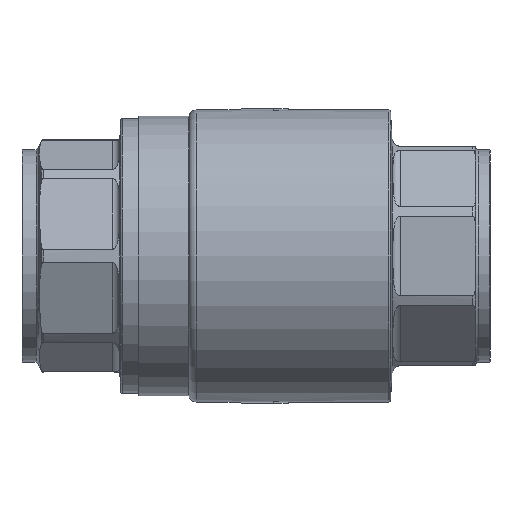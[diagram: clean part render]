
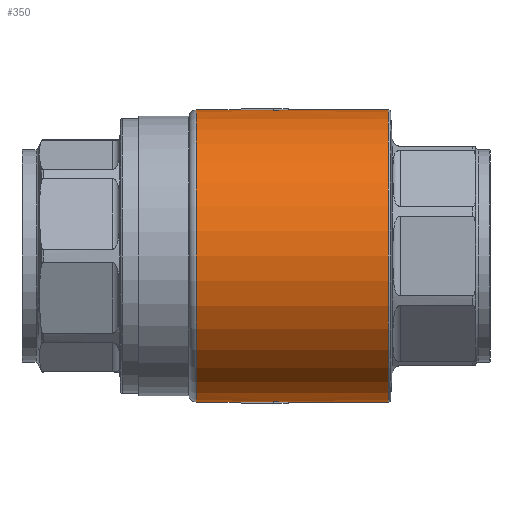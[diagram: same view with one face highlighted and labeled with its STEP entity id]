
A CAD part, front view. The second image highlights one B-rep face of the part: STEP entity #350.
In plain terms, the highlighted cylindrical face has radius 33.211 mm (diameter 66.421 mm), a partial arc.
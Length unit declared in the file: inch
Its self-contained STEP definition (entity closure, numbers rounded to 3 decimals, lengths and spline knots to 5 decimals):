
#60 = DIRECTION ( 'NONE',  ( 0., 0., 1. ) ) ;
#240 = CIRCLE ( 'NONE', #10419, 1.3075 ) ;
#311 = ORIENTED_EDGE ( 'NONE', *, *, #9063, .T. ) ;
#350 = ADVANCED_FACE ( 'NONE', ( #2155 ), #6100, .T. ) ;
#355 = EDGE_CURVE ( 'NONE', #7759, #1272, #7829, .T. ) ;
#364 = LINE ( 'NONE', #9030, #4862 ) ;
#487 = CARTESIAN_POINT ( 'NONE',  ( -0.13204, -0.05642, 1.30628 ) ) ;
#970 = EDGE_CURVE ( 'NONE', #5549, #2252, #11934, .T. ) ;
#1012 = CARTESIAN_POINT ( 'NONE',  ( 0.15845, -0.13324, -1.30069 ) ) ;
#1023 = ORIENTED_EDGE ( 'NONE', *, *, #4051, .T. ) ;
#1106 = EDGE_CURVE ( 'NONE', #10677, #5549, #2457, .T. ) ;
#1220 = CIRCLE ( 'NONE', #7799, 1.3075 ) ;
#1251 = CARTESIAN_POINT ( 'NONE',  ( -2.21004, 0., 1.3075 ) ) ;
#1272 = VERTEX_POINT ( 'NONE', #4409 ) ;
#1329 = LINE ( 'NONE', #10832, #9199 ) ;
#1732 = VECTOR ( 'NONE', #9700, 39.37008 ) ;
#1844 = AXIS2_PLACEMENT_3D ( 'NONE', #8879, #2208, #9887 ) ;
#1937 = LINE ( 'NONE', #11482, #3729 ) ;
#1957 = VERTEX_POINT ( 'NONE', #5505 ) ;
#2025 = DIRECTION ( 'NONE',  ( -1., 0., 0. ) ) ;
#2155 = FACE_OUTER_BOUND ( 'NONE', #10542, .T. ) ;
#2208 = DIRECTION ( 'NONE',  ( 1., 0., 0. ) ) ;
#2252 = VERTEX_POINT ( 'NONE', #8299 ) ;
#2331 = DIRECTION ( 'NONE',  ( -1., 0., 0. ) ) ;
#2415 = CARTESIAN_POINT ( 'NONE',  ( 0.15845, -0.13324, 1.30069 ) ) ;
#2457 = LINE ( 'NONE', #11063, #6604 ) ;
#2672 = CIRCLE ( 'NONE', #9452, 1.3075 ) ;
#3000 = DIRECTION ( 'NONE',  ( -1., 0., 0. ) ) ;
#3070 = DIRECTION ( 'NONE',  ( -1., 0., 0. ) ) ;
#3098 = CARTESIAN_POINT ( 'NONE',  ( 0.28808, 0., -1.3075 ) ) ;
#3109 = ORIENTED_EDGE ( 'NONE', *, *, #5482, .T. ) ;
#3287 = ORIENTED_EDGE ( 'NONE', *, *, #970, .F. ) ;
#3351 = CARTESIAN_POINT ( 'NONE',  ( 0.28808, 0., 1.3075 ) ) ;
#3390 = CARTESIAN_POINT ( 'NONE',  ( -0.53413, 0., 1.3075 ) ) ;
#3415 = EDGE_CURVE ( 'NONE', #9755, #3786, #364, .T. ) ;
#3457 = ORIENTED_EDGE ( 'NONE', *, *, #12158, .T. ) ;
#3701 = CARTESIAN_POINT ( 'NONE',  ( -0.53413, 0., -1.3075 ) ) ;
#3707 = VERTEX_POINT ( 'NONE', #8273 ) ;
#3729 = VECTOR ( 'NONE', #11302, 39.37008 ) ;
#3786 = VERTEX_POINT ( 'NONE', #10214 ) ;
#3874 = CARTESIAN_POINT ( 'NONE',  ( 0.15845, -0.05642, -1.30628 ) ) ;
#3900 = CARTESIAN_POINT ( 'NONE',  ( -0.13204, 0., -1.3075 ) ) ;
#4051 = EDGE_CURVE ( 'NONE', #10445, #8870, #2672, .T. ) ;
#4159 = CARTESIAN_POINT ( 'NONE',  ( -2.21004, 0., 0. ) ) ;
#4230 = ORIENTED_EDGE ( 'NONE', *, *, #10963, .T. ) ;
#4233 = CIRCLE ( 'NONE', #7220, 1.3075 ) ;
#4284 = CARTESIAN_POINT ( 'NONE',  ( 0.24478, -0.04451, 1.3075 ) ) ;
#4338 = CARTESIAN_POINT ( 'NONE',  ( 0.20153, -0.08896, 1.30523 ) ) ;
#4409 = CARTESIAN_POINT ( 'NONE',  ( 0.28808, 0., 1.3075 ) ) ;
#4657 = DIRECTION ( 'NONE',  ( 0., 0., -1. ) ) ;
#4690 = CARTESIAN_POINT ( 'NONE',  ( 1.185, 0., 0. ) ) ;
#4862 = VECTOR ( 'NONE', #10975, 39.37008 ) ;
#5108 = ORIENTED_EDGE ( 'NONE', *, *, #355, .T. ) ;
#5280 = DIRECTION ( 'NONE',  ( 1., 0., 0. ) ) ;
#5399 = VERTEX_POINT ( 'NONE', #3900 ) ;
#5482 = EDGE_CURVE ( 'NONE', #3707, #8444, #240, .T. ) ;
#5505 = CARTESIAN_POINT ( 'NONE',  ( -0.13204, 0., 1.3075 ) ) ;
#5549 = VERTEX_POINT ( 'NONE', #3098 ) ;
#5602 = CIRCLE ( 'NONE', #7806, 1.3075 ) ;
#5636 = CIRCLE ( 'NONE', #1844, 1.3075 ) ;
#5646 = ORIENTED_EDGE ( 'NONE', *, *, #8358, .T. ) ;
#5889 = ORIENTED_EDGE ( 'NONE', *, *, #6451, .T. ) ;
#5900 = CARTESIAN_POINT ( 'NONE',  ( 0.15845, 0., 0. ) ) ;
#6084 = CARTESIAN_POINT ( 'NONE',  ( 1.185, 0., 1.3075 ) ) ;
#6100 = CYLINDRICAL_SURFACE ( 'NONE', #6338, 1.3075 ) ;
#6338 = AXIS2_PLACEMENT_3D ( 'NONE', #4159, #2025, #10778 ) ;
#6451 = EDGE_CURVE ( 'NONE', #8444, #7385, #1937, .T. ) ;
#6458 = ORIENTED_EDGE ( 'NONE', *, *, #9282, .F. ) ;
#6604 = VECTOR ( 'NONE', #2331, 39.37008 ) ;
#6751 = ORIENTED_EDGE ( 'NONE', *, *, #1106, .F. ) ;
#7220 = AXIS2_PLACEMENT_3D ( 'NONE', #8558, #8626, #9443 ) ;
#7385 = VERTEX_POINT ( 'NONE', #487 ) ;
#7617 = CARTESIAN_POINT ( 'NONE',  ( 1.185, 0., -1.3075 ) ) ;
#7759 = VERTEX_POINT ( 'NONE', #6084 ) ;
#7799 = AXIS2_PLACEMENT_3D ( 'NONE', #4690, #3000, #60 ) ;
#7806 = AXIS2_PLACEMENT_3D ( 'NONE', #10439, #9491, #11362 ) ;
#7829 = LINE ( 'NONE', #11570, #1732 ) ;
#8262 = EDGE_CURVE ( 'NONE', #3786, #5399, #5602, .T. ) ;
#8270 = ORIENTED_EDGE ( 'NONE', *, *, #3415, .F. ) ;
#8273 = CARTESIAN_POINT ( 'NONE',  ( 0.15845, -0.13324, 1.30069 ) ) ;
#8299 = CARTESIAN_POINT ( 'NONE',  ( 0.15845, -0.13324, -1.30069 ) ) ;
#8358 = EDGE_CURVE ( 'NONE', #10677, #7759, #1220, .T. ) ;
#8420 = CARTESIAN_POINT ( 'NONE',  ( 0.15845, -0.05642, 1.30628 ) ) ;
#8444 = VERTEX_POINT ( 'NONE', #8420 ) ;
#8558 = CARTESIAN_POINT ( 'NONE',  ( -0.13204, 0., 0. ) ) ;
#8626 = DIRECTION ( 'NONE',  ( -1., 0., 0. ) ) ;
#8830 = VECTOR ( 'NONE', #3070, 39.37008 ) ;
#8867 = LINE ( 'NONE', #1251, #8830 ) ;
#8870 = VERTEX_POINT ( 'NONE', #3701 ) ;
#8879 = CARTESIAN_POINT ( 'NONE',  ( 0.15845, 0., 0. ) ) ;
#9030 = CARTESIAN_POINT ( 'NONE',  ( -2.21004, -0.05642, -1.30628 ) ) ;
#9063 = EDGE_CURVE ( 'NONE', #7385, #1957, #4233, .T. ) ;
#9199 = VECTOR ( 'NONE', #9689, 39.37008 ) ;
#9282 = EDGE_CURVE ( 'NONE', #5399, #8870, #1329, .T. ) ;
#9367 = CARTESIAN_POINT ( 'NONE',  ( 0.20153, -0.08896, -1.30523 ) ) ;
#9443 = DIRECTION ( 'NONE',  ( 0., 0., -1. ) ) ;
#9452 = AXIS2_PLACEMENT_3D ( 'NONE', #10780, #5280, #10908 ) ;
#9491 = DIRECTION ( 'NONE',  ( 1., 0., 0. ) ) ;
#9683 = ORIENTED_EDGE ( 'NONE', *, *, #10274, .F. ) ;
#9689 = DIRECTION ( 'NONE',  ( -1., 0., 0. ) ) ;
#9700 = DIRECTION ( 'NONE',  ( -1., 0., 0. ) ) ;
#9703 = DIRECTION ( 'NONE',  ( -1., 0., 0. ) ) ;
#9755 = VERTEX_POINT ( 'NONE', #3874 ) ;
#9887 = DIRECTION ( 'NONE',  ( 0., 0., 1. ) ) ;
#10214 = CARTESIAN_POINT ( 'NONE',  ( -0.13204, -0.05642, -1.30628 ) ) ;
#10274 = EDGE_CURVE ( 'NONE', #2252, #9755, #5636, .T. ) ;
#10419 = AXIS2_PLACEMENT_3D ( 'NONE', #5900, #9703, #4657 ) ;
#10439 = CARTESIAN_POINT ( 'NONE',  ( -0.13204, 0., 0. ) ) ;
#10445 = VERTEX_POINT ( 'NONE', #3390 ) ;
#10509 = CARTESIAN_POINT ( 'NONE',  ( 0.24478, -0.04451, -1.3075 ) ) ;
#10542 = EDGE_LOOP ( 'NONE', ( #6751, #5646, #5108, #3457, #3109, #5889, #311, #4230, #1023, #6458, #11326, #8270, #9683, #3287 ) ) ;
#10677 = VERTEX_POINT ( 'NONE', #7617 ) ;
#10740 =( BOUNDED_CURVE ( )  B_SPLINE_CURVE ( 3, ( #3351, #4284, #4338, #2415 ),
 .UNSPECIFIED., .F., .T. ) 
 B_SPLINE_CURVE_WITH_KNOTS ( ( 4, 4 ),
 ( 4.71239, 4.81447 ),
 .UNSPECIFIED. ) 
 CURVE ( )  GEOMETRIC_REPRESENTATION_ITEM ( )  RATIONAL_B_SPLINE_CURVE ( ( 1., 0.999, 0.999, 1. ) ) 
 REPRESENTATION_ITEM ( '' )  );
#10778 = DIRECTION ( 'NONE',  ( 0., 0., 1. ) ) ;
#10780 = CARTESIAN_POINT ( 'NONE',  ( -0.53413, 0., 0. ) ) ;
#10832 = CARTESIAN_POINT ( 'NONE',  ( -2.21004, 0., -1.3075 ) ) ;
#10908 = DIRECTION ( 'NONE',  ( 0., 0., 1. ) ) ;
#10963 = EDGE_CURVE ( 'NONE', #1957, #10445, #8867, .T. ) ;
#10975 = DIRECTION ( 'NONE',  ( -1., 0., 0. ) ) ;
#11063 = CARTESIAN_POINT ( 'NONE',  ( -2.21004, 0., -1.3075 ) ) ;
#11302 = DIRECTION ( 'NONE',  ( -1., 0., 0. ) ) ;
#11326 = ORIENTED_EDGE ( 'NONE', *, *, #8262, .F. ) ;
#11362 = DIRECTION ( 'NONE',  ( 0., 0., 1. ) ) ;
#11374 = CARTESIAN_POINT ( 'NONE',  ( 0.28808, 0., -1.3075 ) ) ;
#11482 = CARTESIAN_POINT ( 'NONE',  ( -2.21004, -0.05642, 1.30628 ) ) ;
#11570 = CARTESIAN_POINT ( 'NONE',  ( -2.21004, 0., 1.3075 ) ) ;
#11934 =( BOUNDED_CURVE ( )  B_SPLINE_CURVE ( 3, ( #11374, #10509, #9367, #1012 ),
 .UNSPECIFIED., .F., .T. ) 
 B_SPLINE_CURVE_WITH_KNOTS ( ( 4, 4 ),
 ( 4.71239, 4.81447 ),
 .UNSPECIFIED. ) 
 CURVE ( )  GEOMETRIC_REPRESENTATION_ITEM ( )  RATIONAL_B_SPLINE_CURVE ( ( 1., 0.999, 0.999, 1. ) ) 
 REPRESENTATION_ITEM ( '' )  );
#12158 = EDGE_CURVE ( 'NONE', #1272, #3707, #10740, .T. ) ;
